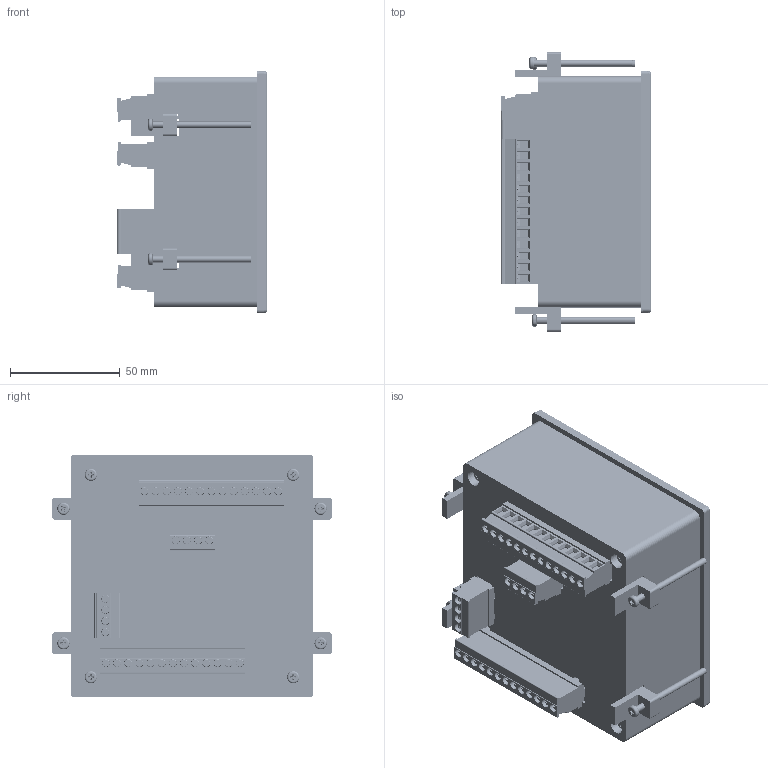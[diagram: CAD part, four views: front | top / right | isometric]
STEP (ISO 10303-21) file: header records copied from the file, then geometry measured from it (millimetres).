
FILE_DESCRIPTION(('STEP AP214'), '1');
FILE_NAME('MI-xAC ñîáðàííûé', '', ('UNSPECIFIED'), ('UNSPECIFIED'), 'C3D Converter', 'C3D Toolkit', '');
FILE_SCHEMA(('AUTOMOTIVE_DESIGN { 1 0 10303 214 3 1 1}'));
Length unit declared in the file: millimetre
Bounding box: 67.97 x 127.08 x 110.42 mm (x, y, z)
Volume: 184656.9 mm3; surface area: 166186.6 mm2
Topology: 6 solids, 12 shells, 7214 faces, 19565 edges, 12746 vertices
Faces by surface type: plane 4176, cylinder 1411, extrusion 1218, torus 167, cone 101, bspline 88, sphere 53
Full cylindrical faces by diameter (mm): 0.007 x1, 0.9 x4, 1 x26, 1.5 x34, 2 x4, 2.3 x2, 2.5 x8, 3 x54, 3.486 x6, 3.635 x4, 3.7 x10, 3.8 x4, 3.85 x34, 3.984 x1, 4 x4, 4.9 x4, 5.6 x8, 6.972 x4, 7.47 x2, 7.968 x4
Entity records: 313920 total; most frequent: CARTESIAN_POINT 79735, ORIENTED_EDGE 38250, DIRECTION 31862, EDGE_CURVE 19125, VECTOR 14084, LINE 12866, VERTEX_POINT 12732, AXIS2_PLACEMENT_3D 8889
